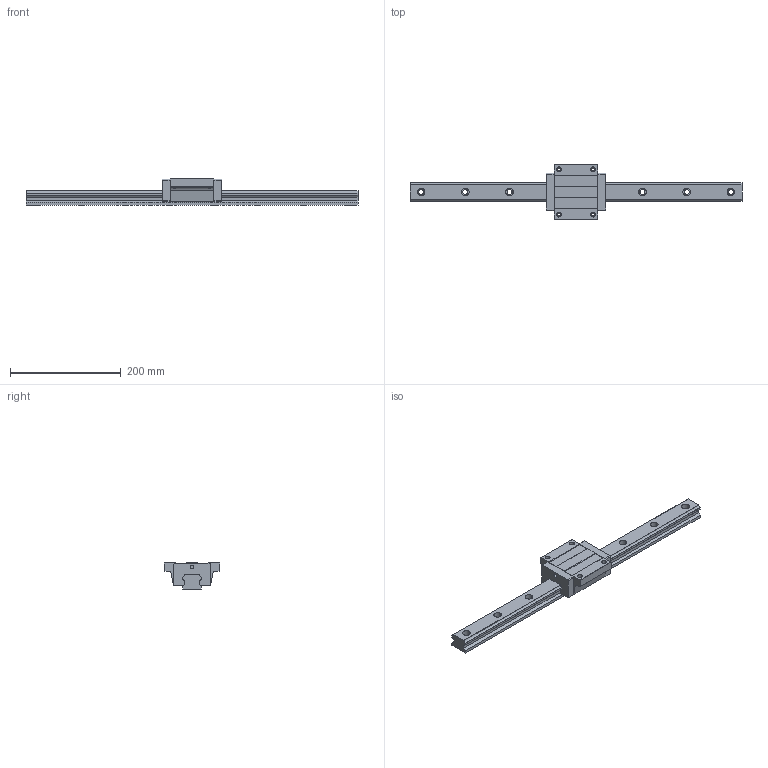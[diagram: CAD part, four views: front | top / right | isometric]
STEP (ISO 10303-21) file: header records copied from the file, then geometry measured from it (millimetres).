
FILE_DESCRIPTION (( 'STEP AP203' ), '1' );
FILE_NAME ('TRH35FN-XNC.STEP', '2024-08-16T05:55:39', ( '' ), ( '' ), 'SwSTEP 2.0', 'SolidWorks 2021', '' );
FILE_SCHEMA (( 'CONFIG_CONTROL_DESIGN' ));
Length unit declared in the file: millimetre
Products named in the file (1): TRH35FN-XNC
Bounding box: 600 x 100 x 48 mm (x, y, z)
Volume: 713789.2 mm3; surface area: 118427.9 mm2
Topology: 1 solids, 1 shells, 188 faces, 532 edges, 348 vertices
Faces by surface type: plane 98, cylinder 90
Entity records: 6513 total; most frequent: CARTESIAN_POINT 1333, DIRECTION 1086, ORIENTED_EDGE 1064, EDGE_CURVE 532, AXIS2_PLACEMENT_3D 373, VERTEX_POINT 348, VECTOR 340, LINE 340
